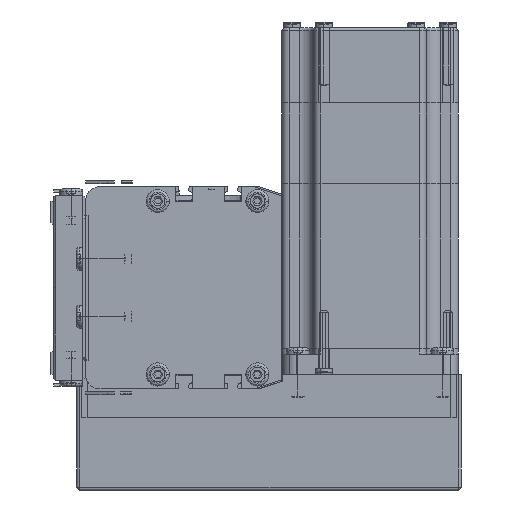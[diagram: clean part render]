
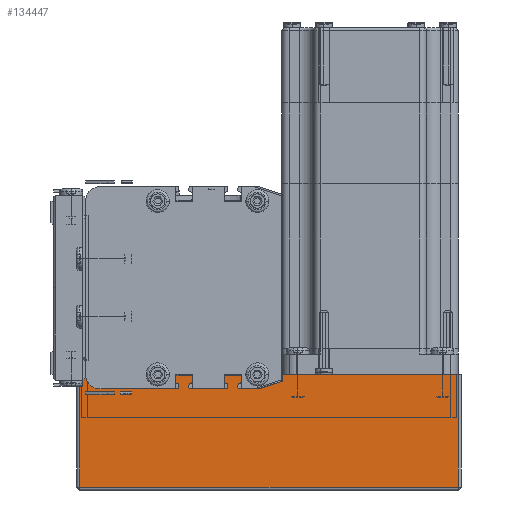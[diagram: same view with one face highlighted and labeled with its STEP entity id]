
A CAD part, left-side view. The second image highlights one B-rep face of the part: STEP entity #134447.
In plain terms, the highlighted planar face has unit normal (-1, 0, 0) as drawn and (0, 1, 0) by its records, which use the part's own axes.
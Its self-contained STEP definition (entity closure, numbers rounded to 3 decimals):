
#79307 = CARTESIAN_POINT ( 'NONE',  ( 1., 62., 0. ) ) ;
#81049 = DIRECTION ( 'NONE',  ( -1., 0., 0. ) ) ;
#81052 = VECTOR ( 'NONE', #81049, 1000. ) ;
#81055 = CARTESIAN_POINT ( 'NONE',  ( 0., 62., 0. ) ) ;
#81057 = LINE ( 'NONE', #81055, #81052 ) ;
#81123 = CARTESIAN_POINT ( 'NONE',  ( 132., 62., 0. ) ) ;
#113633 = CARTESIAN_POINT ( 'NONE',  ( 132., 62., 39. ) ) ;
#113639 = DIRECTION ( 'NONE',  ( 0., 0., -1. ) ) ;
#113641 = VECTOR ( 'NONE', #113639, 1000. ) ;
#113642 = CARTESIAN_POINT ( 'NONE',  ( 132., 62., 40. ) ) ;
#113646 = DIRECTION ( 'NONE',  ( 1., 0., 0. ) ) ;
#113648 = CARTESIAN_POINT ( 'NONE',  ( 0., 62., 39. ) ) ;
#113652 = LINE ( 'NONE', #113642, #113641 ) ;
#113669 = CARTESIAN_POINT ( 'NONE',  ( 1., 62., 39. ) ) ;
#113748 = VECTOR ( 'NONE', #113646, 1000. ) ;
#113763 = LINE ( 'NONE', #113648, #113748 ) ;
#114823 = CARTESIAN_POINT ( 'NONE',  ( 1., 62., 40. ) ) ;
#114824 = LINE ( 'NONE', #114823, #114864 ) ;
#114863 = DIRECTION ( 'NONE',  ( 0., 0., 1. ) ) ;
#114864 = VECTOR ( 'NONE', #114863, 1000. ) ;
#115078 = AXIS2_PLACEMENT_3D ( 'NONE', #115162, #115160, #115159 ) ;
#115081 = PLANE ( 'NONE',  #115078 ) ;
#115085 = FACE_OUTER_BOUND ( 'NONE', #134249, .T. ) ;
#115159 = DIRECTION ( 'NONE',  ( 0., 0., -1. ) ) ;
#115160 = DIRECTION ( 'NONE',  ( 0., -1., 0. ) ) ;
#115162 = CARTESIAN_POINT ( 'NONE',  ( 0., 62., 40. ) ) ;
#118101 = VERTEX_POINT ( 'NONE', #79307 ) ;
#118230 = VERTEX_POINT ( 'NONE', #81123 ) ;
#118243 = EDGE_CURVE ( 'NONE', #118230, #118101, #81057, .T. ) ;
#134220 = ORIENTED_EDGE ( 'NONE', *, *, #134222, .T. ) ;
#134222 = EDGE_CURVE ( 'NONE', #134234, #118230, #113652, .T. ) ;
#134231 = VERTEX_POINT ( 'NONE', #113669 ) ;
#134234 = VERTEX_POINT ( 'NONE', #113633 ) ;
#134249 = EDGE_LOOP ( 'NONE', ( #134439, #134220, #134448, #134401 ) ) ;
#134265 = EDGE_CURVE ( 'NONE', #134231, #134234, #113763, .T. ) ;
#134398 = EDGE_CURVE ( 'NONE', #118101, #134231, #114824, .T. ) ;
#134401 = ORIENTED_EDGE ( 'NONE', *, *, #134398, .T. ) ;
#134439 = ORIENTED_EDGE ( 'NONE', *, *, #134265, .T. ) ;
#134447 = ADVANCED_FACE ( 'NONE', ( #115085 ), #115081, .F. ) ;
#134448 = ORIENTED_EDGE ( 'NONE', *, *, #118243, .T. ) ;
